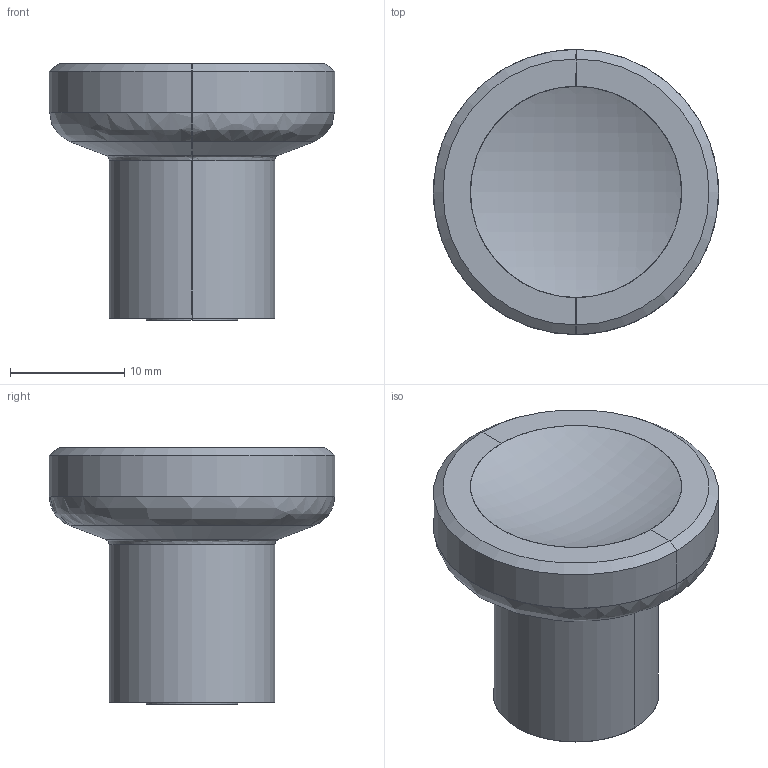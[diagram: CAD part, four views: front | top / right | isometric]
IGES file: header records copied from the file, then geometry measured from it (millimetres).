
Start section: SolidWorks IGES file using analytic representation for surfaces
Global section: file name: X:\11_SW2020-Inv2020\00_全2021-11新製品まで\e\EKK25-LB\ekk25-lb.IGS; native system: SolidWorks 2020; preprocessor: SolidWorks 2020; author: ImaoCorp; date: 211025.110149; units: millimetre
Bounding box: 25 x 25 x 22.5 mm (x, y, z)
Surface area: 2297.4 mm2 (no closed solid volume)
Topology: 0 solids, 0 shells, 22 faces, 264 edges, 264 vertices
Faces by surface type: revolution 15, bspline 7
